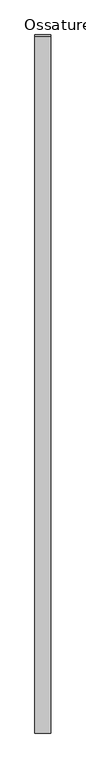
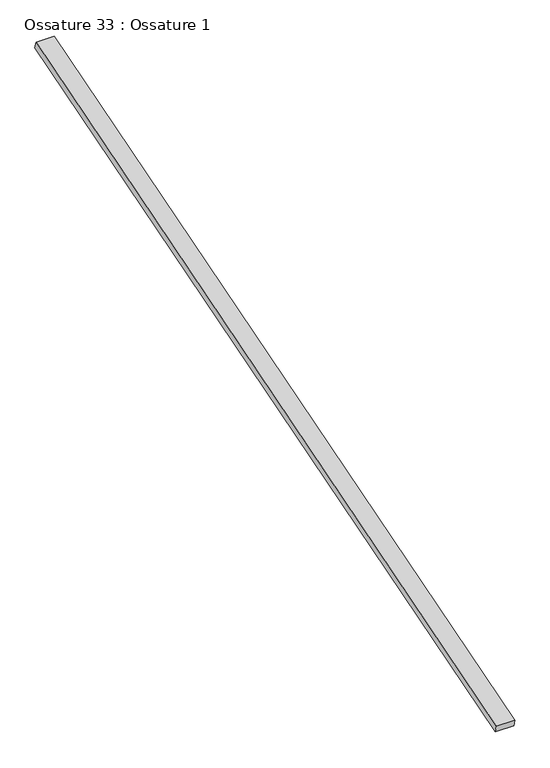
"""IFC4 building model written with IfcOpenShell, lengths in millimetres: beam geometry, Ossature 33 : Ossature 1."""

from ifc_helpers import new_model, si_unit, frame, origin, place, context, project, spatial, polyline, outline, extrude, source, transform, mapped, element, save


def ossature_33_ossature_1_9b6671df(model_context):
    return source(origin(), model_context, "Body", "SweptSolid", [
        extrude(outline(polyline([(0.0, 0.0), (0.0, -4543.0299679), (-100.0, -4543.0299679), (-100.0, 0.0), (0.0, 0.0)])), frame((8163.0466393, -833.3913565, 8153.6336115), z_axis=(0.0, -0.28734788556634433, 0.9578262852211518), x_axis=(-1.0, 0.0, 0.0)), (0.0, 0.0, 1.0), 40.0),
    ])


if __name__ == "__main__":
    model = new_model("IFC4")
    model_context = context("Model", 3, world=origin())
    ifc_project = project(units=[si_unit("LENGTHUNIT", "METRE", prefix="MILLI")], contexts=[model_context])
    site = spatial("IfcSite", under=ifc_project)
    building = spatial("IfcBuilding", under=site)
    placement = place(None, origin())
    ossature_33_ossature_1_shape = ossature_33_ossature_1_9b6671df(model_context)
    element("IfcBeam", 1, ObjectType="Ossature 33 : Ossature 1", at=placement, inside=building, context=model_context, shape_type="MappedRepresentation", body=[
        mapped(ossature_33_ossature_1_shape, transform((0.0, 0.0, 0.0), x_axis=(1.0, 0.0, 0.0), y_axis=(0.0, 1.0, 0.0), z_axis=(0.0, 0.0, 1.0))),
    ])
    save(model, "model.ifc")
